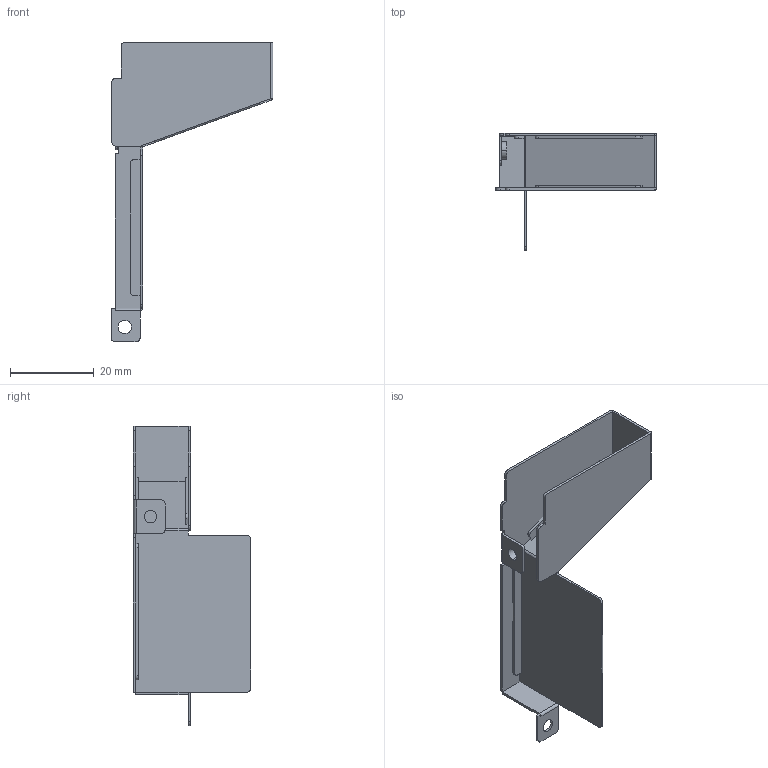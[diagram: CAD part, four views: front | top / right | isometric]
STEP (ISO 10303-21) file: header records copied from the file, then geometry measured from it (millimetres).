
FILE_DESCRIPTION((''),'2;1');
FILE_NAME('123700000213A_AIR_INLET_L_ASM','2019-07-31T',('curtis_chen'),(''),'PRO/ENGINEER BY PARAMETRIC TECHNOLOGY CORPORATION, 2012480','PRO/ENGINEER BY PARAMETRIC TECHNOLOGY CORPORATION, 2012480','');
FILE_SCHEMA(('AUTOMOTIVE_DESIGN { 1 0 10303 214 1 1 1 1 }'));
Length unit declared in the file: millimetre
Products named in the file (2): AIR_INLET_L; 123700000213A_AIR_INLET_L_ASM
Assembly tree (1 placements, depth 2):
  123700000213A_AIR_INLET_L_ASM
    AIR_INLET_L
Bounding box: 38.8 x 28.1 x 71.7 mm (x, y, z)
Volume: 2245.8 mm3; surface area: 7824.6 mm2
Topology: 1 solids, 1 shells, 133 faces, 311 edges, 180 vertices
Faces by surface type: plane 96, cylinder 35, bspline 2
Entity records: 4078 total; most frequent: CARTESIAN_POINT 713, DIRECTION 645, ORIENTED_EDGE 622, EDGE_CURVE 311, VECTOR 241, LINE 241, AXIS2_PLACEMENT_3D 202, VERTEX_POINT 180
